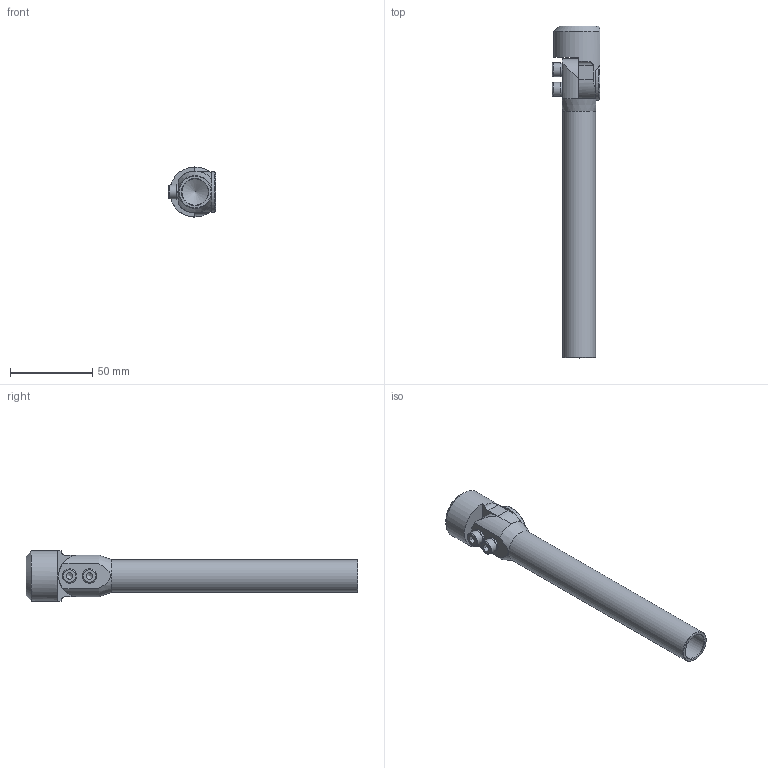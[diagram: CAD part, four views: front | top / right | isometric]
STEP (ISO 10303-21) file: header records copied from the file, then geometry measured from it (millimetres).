
FILE_DESCRIPTION(/* description */ ('Elbow Vacuum Cup Gripper Arm'),/* implementation_level */ '2;1');
FILE_NAME(/* name */ 'EVGA-20-38-18-150.STEP',/* time_stamp */ '2026-02-10T14:31:27-05:00',/* author */ ('Design2'),/* organization */ ('CCS Design LLC'),/* preprocessor_version */ 'ST-DEVELOPER v20',/* originating_system */ 'Autodesk Inventor 2025',/* authorisation */ '');
FILE_SCHEMA (('AUTOMOTIVE_DESIGN { 1 0 10303 214 3 1 1 }'));
Length unit declared in the file: inch
Products named in the file (6): EVGA-20-38-18-150; M-EGA-20-150-S; M-EGA-20-I; M-EVGA-38-18-H; ASME B18.21.2M - 5; ANSI B18.3.1M - M5x0.8 x 20
Assembly tree (7 placements, depth 2):
  EVGA-20-38-18-150
    M-EGA-20-150-S
    M-EGA-20-I
    M-EVGA-38-18-H
    ASME B18.21.2M - 5  x2
    ANSI B18.3.1M - M5x0.8 x 20  x2
Bounding box: 28.89 x 201.85 x 30.48 mm (x, y, z)
Volume: 42630.6 mm3; surface area: 29412.7 mm2
Topology: 7 solids, 7 shells, 91 faces, 213 edges, 140 vertices
Faces by surface type: plane 43, cylinder 29, cone 15, torus 4
Full cylindrical faces by diameter (mm): 4.14 x2, 5 x2, 5.512 x2, 8.5 x2, 8.56 x1, 14.961 x1, 16 x1, 20 x4, 25 x1
Entity records: 2437 total; most frequent: CARTESIAN_POINT 536, DIRECTION 378, ORIENTED_EDGE 326, EDGE_CURVE 163, AXIS2_PLACEMENT_3D 157, VERTEX_POINT 108, EDGE_LOOP 87, FACE_OUTER_BOUND 70
